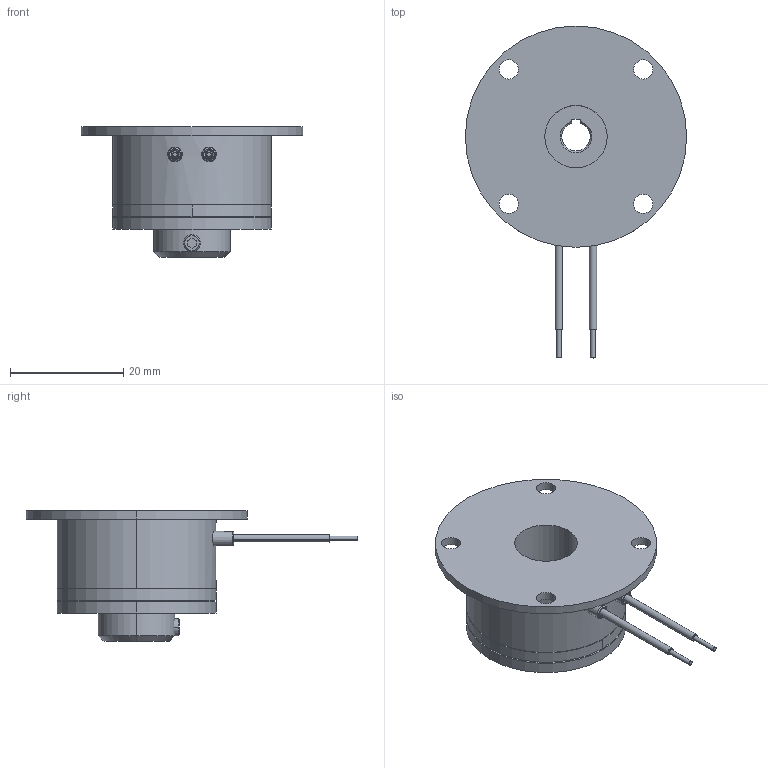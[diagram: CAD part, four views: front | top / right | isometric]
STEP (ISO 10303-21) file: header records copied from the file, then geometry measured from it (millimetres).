
FILE_DESCRIPTION (( 'STEP AP214' ), '1' );
FILE_NAME ('dr_bk_0102-030_mu.STEP', '2021-11-10T09:27:20', ( '' ), ( '' ), 'SwSTEP 2.0', 'SolidWorks 2019', '' );
FILE_SCHEMA (( 'AUTOMOTIVE_DESIGN' ));
Length unit declared in the file: millimetre
Products named in the file (11): 10068721_000; 10068716_000; 10068719_000; 10068718_000_Einbaul„nge 1,4mm; 10068715_000; 10068717_000_M3x5 ISO 4029; 10068720_000; 10068678_000; 10068718_000_Einbaul„nge 1,35mm; 10068722_000; dr_bk_0102-030_mu
Assembly tree (15 placements, depth 4):
  dr_bk_0102-030_mu
    10068678_000
    10068715_000
      10068716_000
      10068719_000
        10068720_000
        10068721_000
        10068718_000_Einbaul„nge 1,35mm  x2
        10068722_000  x2
      10068718_000_Einbaul„nge 1,4mm  x2
      10068722_000  x2
      10068717_000_M3x5 ISO 4029
Bounding box: 39 x 58.5 x 23.05 mm (x, y, z)
Volume: 10790.4 mm3; surface area: 8424.4 mm2
Topology: 15 solids, 15 shells, 248 faces, 554 edges, 342 vertices
Faces by surface type: cylinder 119, cone 62, plane 43, torus 16, sphere 8
Entity records: 6917 total; most frequent: CARTESIAN_POINT 1148, DIRECTION 1088, ORIENTED_EDGE 860, AXIS2_PLACEMENT_3D 462, EDGE_CURVE 430, VERTEX_POINT 270, CIRCLE 250, EDGE_LOOP 248
